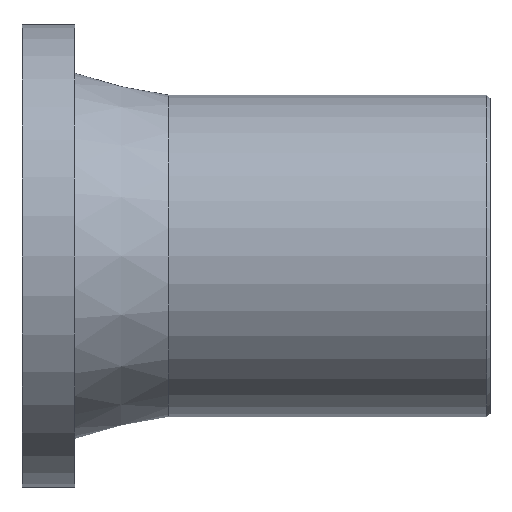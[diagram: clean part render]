
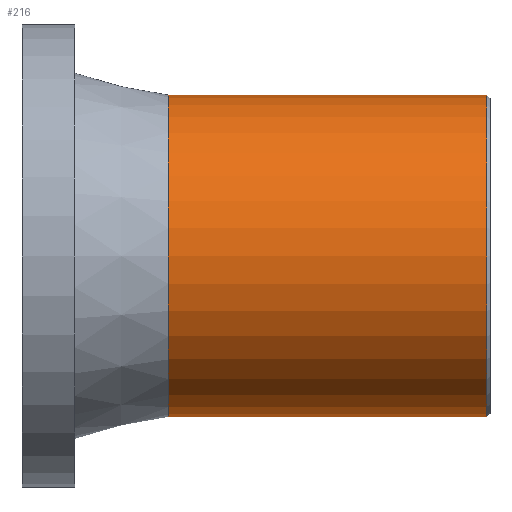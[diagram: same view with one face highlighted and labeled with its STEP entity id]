
A CAD part, front view. The second image highlights one B-rep face of the part: STEP entity #216.
In plain terms, the highlighted cylindrical face has radius 55 mm (diameter 110 mm), a full revolution.
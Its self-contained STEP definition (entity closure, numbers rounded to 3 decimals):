
#24=CYLINDRICAL_SURFACE('',#240,55.);
#34=FACE_BOUND('',#76,.T.);
#54=FACE_OUTER_BOUND('',#75,.T.);
#75=EDGE_LOOP('',(#175));
#76=EDGE_LOOP('',(#176));
#113=CIRCLE('',#238,55.);
#115=CIRCLE('',#241,55.);
#133=VERTEX_POINT('',#361);
#135=VERTEX_POINT('',#366);
#153=EDGE_CURVE('',#133,#133,#113,.T.);
#155=EDGE_CURVE('',#135,#135,#115,.T.);
#175=ORIENTED_EDGE('',*,*,#155,.T.);
#176=ORIENTED_EDGE('',*,*,#153,.F.);
#216=ADVANCED_FACE('',(#54,#34),#24,.T.);
#238=AXIS2_PLACEMENT_3D('',#362,#281,#282);
#240=AXIS2_PLACEMENT_3D('',#365,#285,#286);
#241=AXIS2_PLACEMENT_3D('',#367,#287,#288);
#281=DIRECTION('center_axis',(1.,0.,0.));
#282=DIRECTION('ref_axis',(0.,-1.,0.));
#285=DIRECTION('center_axis',(1.,0.,0.));
#286=DIRECTION('ref_axis',(0.,1.,0.));
#287=DIRECTION('center_axis',(1.,0.,0.));
#288=DIRECTION('ref_axis',(0.,0.,-1.));
#361=CARTESIAN_POINT('',(-1.1,55.,0.));
#362=CARTESIAN_POINT('Origin',(-1.1,0.,
0.));
#365=CARTESIAN_POINT('Origin',(-55.,0.,0.));
#366=CARTESIAN_POINT('',(-110.,55.,0.));
#367=CARTESIAN_POINT('Origin',(-110.,0.,0.));
